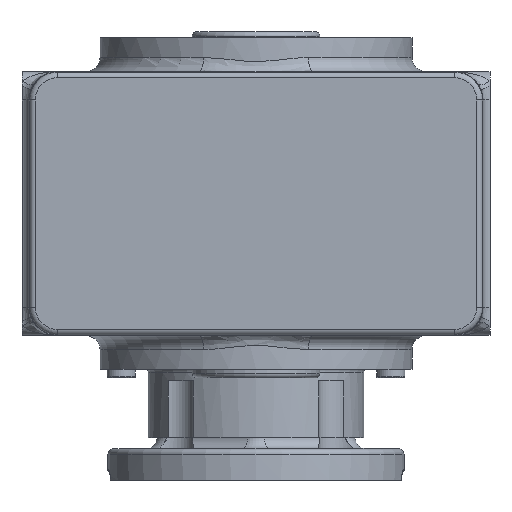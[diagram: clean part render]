
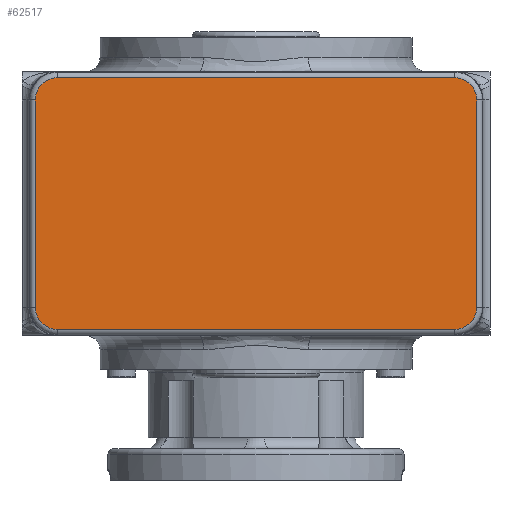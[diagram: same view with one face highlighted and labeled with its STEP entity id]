
A CAD part, front view. The second image highlights one B-rep face of the part: STEP entity #62517.
In plain terms, the highlighted planar face has unit normal (0, -1, 0).
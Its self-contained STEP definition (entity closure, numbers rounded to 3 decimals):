
#44519 = DIRECTION ( 'NONE',  ( 0., 0., -1. ) ) ;
#44520 = DIRECTION ( 'NONE',  ( 0., -1., 0. ) ) ;
#44521 = AXIS2_PLACEMENT_3D ( 'NONE', #44527, #44520, #44519 ) ;
#44522 = CIRCLE ( 'NONE', #44521, 7.86 ) ;
#44527 = CARTESIAN_POINT ( 'NONE',  ( -70., -74.5, 10. ) ) ;
#45818 = CARTESIAN_POINT ( 'NONE',  ( -70., -74.5, 2.14 ) ) ;
#62507 = ORIENTED_EDGE ( 'NONE', *, *, #62510, .T. ) ;
#62508 = EDGE_CURVE ( 'NONE', #62584, #62511, #79030, .T. ) ;
#62509 = VERTEX_POINT ( 'NONE', #80437 ) ;
#62510 = EDGE_CURVE ( 'NONE', #62511, #62509, #80438, .T. ) ;
#62511 = VERTEX_POINT ( 'NONE', #80376 ) ;
#62517 = ADVANCED_FACE ( 'NONE', ( #83445 ), #83444, .T. ) ;
#62518 = ORIENTED_EDGE ( 'NONE', *, *, #62585, .T. ) ;
#62523 = EDGE_LOOP ( 'NONE', ( #62518, #62583, #62507, #62576, #62578, #62581, #70915, #62537 ) ) ;
#62534 = EDGE_CURVE ( 'NONE', #62549, #62582, #81229, .T. ) ;
#62537 = ORIENTED_EDGE ( 'NONE', *, *, #62534, .T. ) ;
#62549 = VERTEX_POINT ( 'NONE', #83434 ) ;
#62557 = EDGE_CURVE ( 'NONE', #70913, #62549, #83488, .T. ) ;
#62575 = EDGE_CURVE ( 'NONE', #62509, #62577, #83725, .T. ) ;
#62576 = ORIENTED_EDGE ( 'NONE', *, *, #62575, .T. ) ;
#62577 = VERTEX_POINT ( 'NONE', #83721 ) ;
#62578 = ORIENTED_EDGE ( 'NONE', *, *, #62579, .T. ) ;
#62579 = EDGE_CURVE ( 'NONE', #62577, #62580, #83720, .T. ) ;
#62580 = VERTEX_POINT ( 'NONE', #83716 ) ;
#62581 = ORIENTED_EDGE ( 'NONE', *, *, #70762, .T. ) ;
#62582 = VERTEX_POINT ( 'NONE', #83715 ) ;
#62583 = ORIENTED_EDGE ( 'NONE', *, *, #62508, .T. ) ;
#62584 = VERTEX_POINT ( 'NONE', #83714 ) ;
#62585 = EDGE_CURVE ( 'NONE', #62582, #62584, #83713, .T. ) ;
#70762 = EDGE_CURVE ( 'NONE', #62580, #70913, #44522, .T. ) ;
#70913 = VERTEX_POINT ( 'NONE', #45818 ) ;
#70915 = ORIENTED_EDGE ( 'NONE', *, *, #62557, .T. ) ;
#79028 = CARTESIAN_POINT ( 'NONE',  ( 70., -74.5, 83. ) ) ;
#79029 = AXIS2_PLACEMENT_3D ( 'NONE', #79028, #80401, #80380 ) ;
#79030 = CIRCLE ( 'NONE', #79029, 7.86 ) ;
#80376 = CARTESIAN_POINT ( 'NONE',  ( 70., -74.5, 90.86 ) ) ;
#80377 = DIRECTION ( 'NONE',  ( -1., 0., 0. ) ) ;
#80378 = VECTOR ( 'NONE', #80377, 1000. ) ;
#80379 = CARTESIAN_POINT ( 'NONE',  ( -70., -74.5, 90.86 ) ) ;
#80380 = DIRECTION ( 'NONE',  ( 0., 0., -1. ) ) ;
#80401 = DIRECTION ( 'NONE',  ( 0., -1., 0. ) ) ;
#80437 = CARTESIAN_POINT ( 'NONE',  ( -70., -74.5, 90.86 ) ) ;
#80438 = LINE ( 'NONE', #80379, #80378 ) ;
#81226 = DIRECTION ( 'NONE',  ( 0., 0., -1. ) ) ;
#81227 = DIRECTION ( 'NONE',  ( 0., -1., 0. ) ) ;
#81228 = AXIS2_PLACEMENT_3D ( 'NONE', #81266, #81227, #81226 ) ;
#81229 = CIRCLE ( 'NONE', #81228, 7.86 ) ;
#81266 = CARTESIAN_POINT ( 'NONE',  ( 70., -74.5, 10. ) ) ;
#83434 = CARTESIAN_POINT ( 'NONE',  ( 70., -74.5, 2.14 ) ) ;
#83440 = DIRECTION ( 'NONE',  ( 0., 0., -1. ) ) ;
#83441 = DIRECTION ( 'NONE',  ( 0., -1., 0. ) ) ;
#83442 = CARTESIAN_POINT ( 'NONE',  ( 70., -74.5, 10. ) ) ;
#83443 = AXIS2_PLACEMENT_3D ( 'NONE', #83442, #83441, #83440 ) ;
#83444 = PLANE ( 'NONE',  #83443 ) ;
#83445 = FACE_OUTER_BOUND ( 'NONE', #62523, .T. ) ;
#83481 = DIRECTION ( 'NONE',  ( 1., 0., 0. ) ) ;
#83482 = VECTOR ( 'NONE', #83481, 1000. ) ;
#83483 = CARTESIAN_POINT ( 'NONE',  ( 70., -74.5, 2.14 ) ) ;
#83488 = LINE ( 'NONE', #83483, #83482 ) ;
#83555 = CARTESIAN_POINT ( 'NONE',  ( -70., -74.5, 83. ) ) ;
#83710 = DIRECTION ( 'NONE',  ( 0., 0., 1. ) ) ;
#83711 = VECTOR ( 'NONE', #83710, 1000. ) ;
#83712 = CARTESIAN_POINT ( 'NONE',  ( 77.86, -74.5, 83. ) ) ;
#83713 = LINE ( 'NONE', #83712, #83711 ) ;
#83714 = CARTESIAN_POINT ( 'NONE',  ( 77.86, -74.5, 83. ) ) ;
#83715 = CARTESIAN_POINT ( 'NONE',  ( 77.86, -74.5, 10. ) ) ;
#83716 = CARTESIAN_POINT ( 'NONE',  ( -77.86, -74.5, 10. ) ) ;
#83717 = DIRECTION ( 'NONE',  ( 0., 0., -1. ) ) ;
#83718 = VECTOR ( 'NONE', #83717, 1000. ) ;
#83719 = CARTESIAN_POINT ( 'NONE',  ( -77.86, -74.5, 10. ) ) ;
#83720 = LINE ( 'NONE', #83719, #83718 ) ;
#83721 = CARTESIAN_POINT ( 'NONE',  ( -77.86, -74.5, 83. ) ) ;
#83722 = DIRECTION ( 'NONE',  ( 0., 0., -1. ) ) ;
#83723 = DIRECTION ( 'NONE',  ( 0., -1., 0. ) ) ;
#83724 = AXIS2_PLACEMENT_3D ( 'NONE', #83555, #83723, #83722 ) ;
#83725 = CIRCLE ( 'NONE', #83724, 7.86 ) ;
